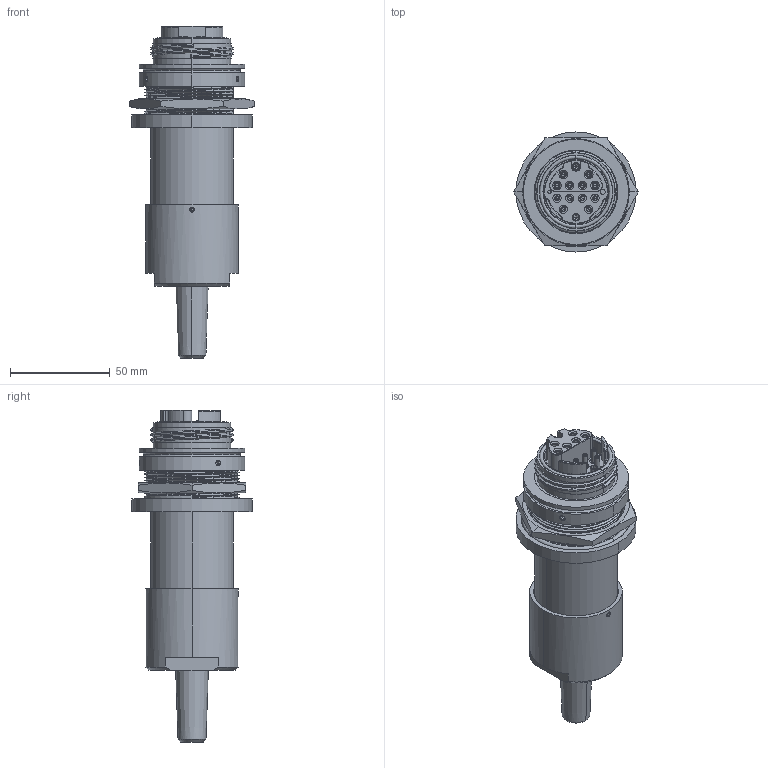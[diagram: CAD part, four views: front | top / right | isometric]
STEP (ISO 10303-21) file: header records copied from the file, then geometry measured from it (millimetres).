
FILE_DESCRIPTION (( 'STEP AP214' ), '1' );
FILE_NAME ('QFOCA-RMXX-12CH-X-SXXX.STEP', '2025-06-09T20:37:17', ( '' ), ( '' ), 'SwSTEP 2.0', 'SolidWorks 2024', '' );
FILE_SCHEMA (( 'AUTOMOTIVE_DESIGN' ));
Length unit declared in the file: inch
Products named in the file (1): QFOCA-RMXX-12CH-X-SXXX
Bounding box: 62.33 x 60.07 x 166.01 mm (x, y, z)
Volume: 202193 mm3; surface area: 48516.4 mm2
Topology: 11 solids, 31 shells, 848 faces, 2023 edges, 1251 vertices
Faces by surface type: cylinder 301, cone 225, plane 181, torus 100, bspline 41
Entity records: 42178 total; most frequent: CARTESIAN_POINT 22530, DIRECTION 4242, ORIENTED_EDGE 4026, EDGE_CURVE 2013, AXIS2_PLACEMENT_3D 1735, VERTEX_POINT 1251, CIRCLE 927, EDGE_LOOP 922
